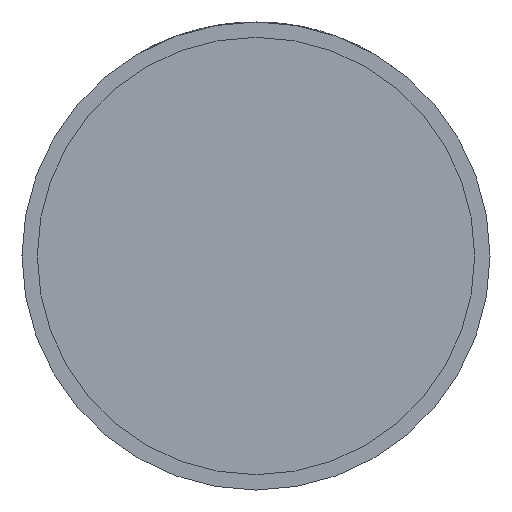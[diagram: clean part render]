
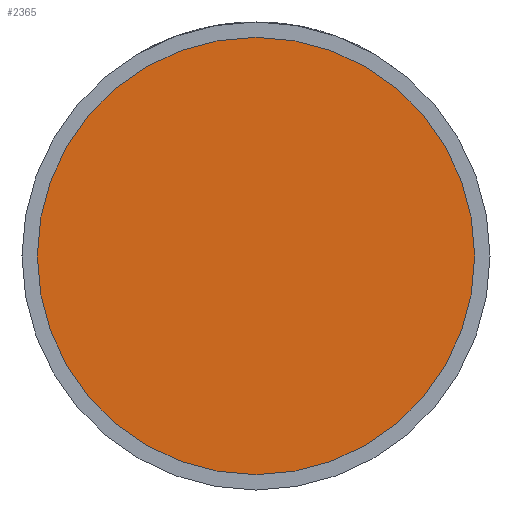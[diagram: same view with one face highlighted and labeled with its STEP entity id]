
A CAD part, front view. The second image highlights one B-rep face of the part: STEP entity #2365.
In plain terms, the highlighted planar face has unit normal (0, -1, 0).
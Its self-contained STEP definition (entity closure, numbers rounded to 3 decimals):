
#11 = EDGE_CURVE ( 'NONE', #1004, #612, #4178, .T. ) ;
#612 = VERTEX_POINT ( 'NONE', #3617 ) ;
#617 = DIRECTION ( 'NONE',  ( 1., 0., 0. ) ) ;
#695 = DIRECTION ( 'NONE',  ( 1., 0., 0. ) ) ;
#717 = DIRECTION ( 'NONE',  ( 0., -1., 0. ) ) ;
#739 = EDGE_LOOP ( 'NONE', ( #1377, #2237 ) ) ;
#1004 = VERTEX_POINT ( 'NONE', #3571 ) ;
#1235 = PLANE ( 'NONE',  #3374 ) ;
#1340 = AXIS2_PLACEMENT_3D ( 'NONE', #3417, #2057, #4093 ) ;
#1377 = ORIENTED_EDGE ( 'NONE', *, *, #2707, .T. ) ;
#2057 = DIRECTION ( 'NONE',  ( 0., -1., 0. ) ) ;
#2237 = ORIENTED_EDGE ( 'NONE', *, *, #11, .T. ) ;
#2365 = ADVANCED_FACE ( 'NONE', ( #4206 ), #1235, .T. ) ;
#2460 = CIRCLE ( 'NONE', #2807, 28.5 ) ;
#2552 = CARTESIAN_POINT ( 'NONE',  ( 28.5, -17.5, 0. ) ) ;
#2707 = EDGE_CURVE ( 'NONE', #612, #1004, #2460, .T. ) ;
#2807 = AXIS2_PLACEMENT_3D ( 'NONE', #3300, #717, #695 ) ;
#3300 = CARTESIAN_POINT ( 'NONE',  ( 0., -17.5, 0. ) ) ;
#3374 = AXIS2_PLACEMENT_3D ( 'NONE', #2552, #3908, #617 ) ;
#3417 = CARTESIAN_POINT ( 'NONE',  ( 0., -17.5, 0. ) ) ;
#3571 = CARTESIAN_POINT ( 'NONE',  ( -28.5, -17.5, 0. ) ) ;
#3617 = CARTESIAN_POINT ( 'NONE',  ( 28.5, -17.5, 0. ) ) ;
#3908 = DIRECTION ( 'NONE',  ( 0., -1., 0. ) ) ;
#4093 = DIRECTION ( 'NONE',  ( 1., 0., 0. ) ) ;
#4178 = CIRCLE ( 'NONE', #1340, 28.5 ) ;
#4206 = FACE_OUTER_BOUND ( 'NONE', #739, .T. ) ;
